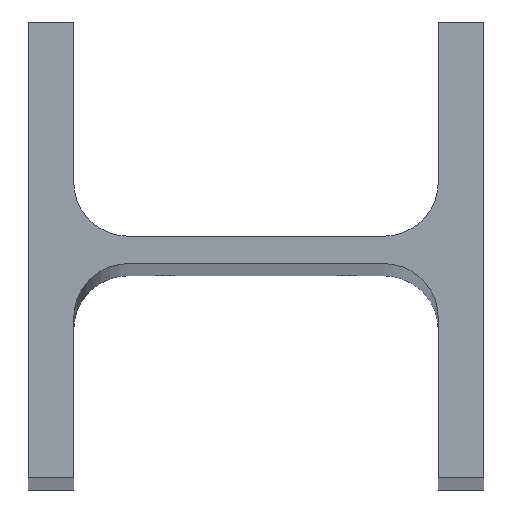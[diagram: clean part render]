
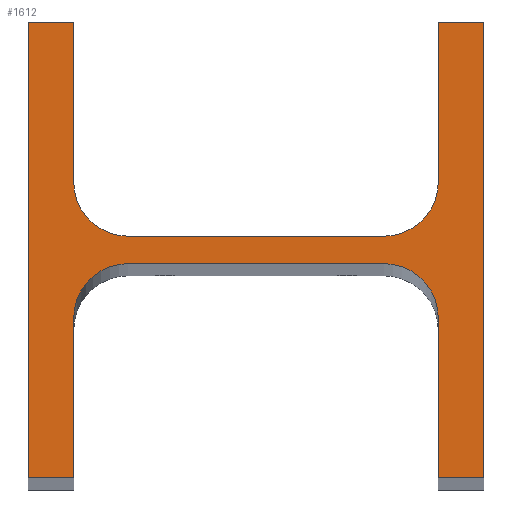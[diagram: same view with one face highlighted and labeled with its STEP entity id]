
A CAD part, top view. The second image highlights one B-rep face of the part: STEP entity #1612.
In plain terms, the highlighted planar face has unit normal (0, 0, 1).
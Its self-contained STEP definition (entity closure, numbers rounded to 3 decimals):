
#32 = VERTEX_POINT ( 'NONE', #3467 ) ;
#65 = CARTESIAN_POINT ( 'NONE',  ( 40., -50., 1530. ) ) ;
#67 = CARTESIAN_POINT ( 'NONE',  ( 50., -50., 1530. ) ) ;
#128 = DIRECTION ( 'NONE',  ( -1., 0., 0. ) ) ;
#144 = CARTESIAN_POINT ( 'NONE',  ( 40., -15., 1530. ) ) ;
#183 = VERTEX_POINT ( 'NONE', #1181 ) ;
#210 = VERTEX_POINT ( 'NONE', #264 ) ;
#216 = CIRCLE ( 'NONE', #276, 12. ) ;
#230 = CARTESIAN_POINT ( 'NONE',  ( 50., 50., 1530. ) ) ;
#264 = CARTESIAN_POINT ( 'NONE',  ( -40., 15., 1530. ) ) ;
#272 = EDGE_CURVE ( 'NONE', #4253, #183, #2492, .T. ) ;
#276 = AXIS2_PLACEMENT_3D ( 'NONE', #1797, #2144, #128 ) ;
#340 = ORIENTED_EDGE ( 'NONE', *, *, #396, .F. ) ;
#357 = AXIS2_PLACEMENT_3D ( 'NONE', #2618, #2980, #1302 ) ;
#373 = ORIENTED_EDGE ( 'NONE', *, *, #444, .F. ) ;
#396 = EDGE_CURVE ( 'NONE', #210, #4233, #2098, .T. ) ;
#423 = DIRECTION ( 'NONE',  ( 0., 1., 0. ) ) ;
#441 = LINE ( 'NONE', #4179, #3630 ) ;
#444 = EDGE_CURVE ( 'NONE', #513, #4253, #3717, .T. ) ;
#477 = CARTESIAN_POINT ( 'NONE',  ( -28., 3., 1530. ) ) ;
#513 = VERTEX_POINT ( 'NONE', #3847 ) ;
#533 = EDGE_CURVE ( 'NONE', #4233, #2009, #3804, .T. ) ;
#557 = DIRECTION ( 'NONE',  ( -1., 0., 0. ) ) ;
#573 = VECTOR ( 'NONE', #557, 1000. ) ;
#588 = ORIENTED_EDGE ( 'NONE', *, *, #2747, .F. ) ;
#591 = DIRECTION ( 'NONE',  ( -1., 0., 0. ) ) ;
#607 = DIRECTION ( 'NONE',  ( 0., 1., 0. ) ) ;
#693 = DIRECTION ( 'NONE',  ( 1., 0., 0. ) ) ;
#708 = CARTESIAN_POINT ( 'NONE',  ( -40., -50., 1530. ) ) ;
#714 = VECTOR ( 'NONE', #591, 1000. ) ;
#773 = CARTESIAN_POINT ( 'NONE',  ( 28., 3., 1530. ) ) ;
#831 = CARTESIAN_POINT ( 'NONE',  ( 28., 15., 1530. ) ) ;
#874 = ORIENTED_EDGE ( 'NONE', *, *, #272, .F. ) ;
#889 = EDGE_LOOP ( 'NONE', ( #2291, #588, #2953, #3094, #4211, #3871, #340, #3133, #874, #373, #1737, #2743, #4133, #4248, #1467, #2971 ) ) ;
#1003 = CARTESIAN_POINT ( 'NONE',  ( 40., 15., 1530. ) ) ;
#1071 = EDGE_CURVE ( 'NONE', #1914, #513, #1629, .T. ) ;
#1081 = VECTOR ( 'NONE', #4214, 1000. ) ;
#1181 = CARTESIAN_POINT ( 'NONE',  ( -40., 50., 1530. ) ) ;
#1234 = FACE_OUTER_BOUND ( 'NONE', #889, .T. ) ;
#1244 = DIRECTION ( 'NONE',  ( 0., 0., 1. ) ) ;
#1271 = CARTESIAN_POINT ( 'NONE',  ( -28., -3., 1530. ) ) ;
#1302 = DIRECTION ( 'NONE',  ( 1., 0., 0. ) ) ;
#1337 = EDGE_CURVE ( 'NONE', #1745, #3792, #3346, .T. ) ;
#1430 = CARTESIAN_POINT ( 'NONE',  ( -40., 50., 1530. ) ) ;
#1467 = ORIENTED_EDGE ( 'NONE', *, *, #3203, .F. ) ;
#1511 = AXIS2_PLACEMENT_3D ( 'NONE', #2451, #2744, #4421 ) ;
#1543 = EDGE_CURVE ( 'NONE', #3693, #1914, #4473, .T. ) ;
#1588 = VECTOR ( 'NONE', #693, 1000. ) ;
#1612 = ADVANCED_FACE ( 'NONE', ( #1234 ), #3770, .T. ) ;
#1629 = LINE ( 'NONE', #3672, #573 ) ;
#1737 = ORIENTED_EDGE ( 'NONE', *, *, #1071, .F. ) ;
#1744 = AXIS2_PLACEMENT_3D ( 'NONE', #831, #4174, #3907 ) ;
#1745 = VERTEX_POINT ( 'NONE', #3259 ) ;
#1797 = CARTESIAN_POINT ( 'NONE',  ( 28., -15., 1530. ) ) ;
#1891 = CIRCLE ( 'NONE', #357, 12. ) ;
#1903 = LINE ( 'NONE', #2542, #2317 ) ;
#1914 = VERTEX_POINT ( 'NONE', #4141 ) ;
#1924 = LINE ( 'NONE', #230, #3192 ) ;
#2009 = VERTEX_POINT ( 'NONE', #773 ) ;
#2098 = CIRCLE ( 'NONE', #2673, 12. ) ;
#2144 = DIRECTION ( 'NONE',  ( 0., 0., 1. ) ) ;
#2238 = VECTOR ( 'NONE', #2384, 1000. ) ;
#2242 = VECTOR ( 'NONE', #4255, 1000. ) ;
#2283 = EDGE_CURVE ( 'NONE', #3193, #2354, #1903, .T. ) ;
#2288 = DIRECTION ( 'NONE',  ( 1., 0., 0. ) ) ;
#2291 = ORIENTED_EDGE ( 'NONE', *, *, #2780, .F. ) ;
#2314 = CIRCLE ( 'NONE', #1744, 12. ) ;
#2317 = VECTOR ( 'NONE', #3929, 1000. ) ;
#2339 = EDGE_CURVE ( 'NONE', #2009, #2644, #2314, .T. ) ;
#2354 = VERTEX_POINT ( 'NONE', #144 ) ;
#2384 = DIRECTION ( 'NONE',  ( 0., -1., 0. ) ) ;
#2451 = CARTESIAN_POINT ( 'NONE',  ( 28., 15., 1530. ) ) ;
#2475 = EDGE_CURVE ( 'NONE', #3792, #3693, #1891, .T. ) ;
#2492 = LINE ( 'NONE', #1430, #4045 ) ;
#2542 = CARTESIAN_POINT ( 'NONE',  ( 40., -15., 1530. ) ) ;
#2582 = CARTESIAN_POINT ( 'NONE',  ( 50., -50., 1530. ) ) ;
#2618 = CARTESIAN_POINT ( 'NONE',  ( -28., -15., 1530. ) ) ;
#2644 = VERTEX_POINT ( 'NONE', #1003 ) ;
#2673 = AXIS2_PLACEMENT_3D ( 'NONE', #2959, #1244, #2288 ) ;
#2743 = ORIENTED_EDGE ( 'NONE', *, *, #1543, .F. ) ;
#2744 = DIRECTION ( 'NONE',  ( 0., 0., 1. ) ) ;
#2747 = EDGE_CURVE ( 'NONE', #2908, #4227, #3817, .T. ) ;
#2780 = EDGE_CURVE ( 'NONE', #4227, #3193, #3186, .T. ) ;
#2906 = CARTESIAN_POINT ( 'NONE',  ( -50., 50., 1530. ) ) ;
#2908 = VERTEX_POINT ( 'NONE', #4139 ) ;
#2953 = ORIENTED_EDGE ( 'NONE', *, *, #4447, .F. ) ;
#2959 = CARTESIAN_POINT ( 'NONE',  ( -28., 15., 1530. ) ) ;
#2971 = ORIENTED_EDGE ( 'NONE', *, *, #2283, .F. ) ;
#2980 = DIRECTION ( 'NONE',  ( 0., 0., 1. ) ) ;
#3004 = EDGE_CURVE ( 'NONE', #2644, #32, #3574, .T. ) ;
#3042 = VECTOR ( 'NONE', #423, 1000. ) ;
#3094 = ORIENTED_EDGE ( 'NONE', *, *, #3004, .F. ) ;
#3133 = ORIENTED_EDGE ( 'NONE', *, *, #3303, .F. ) ;
#3186 = LINE ( 'NONE', #65, #1081 ) ;
#3192 = VECTOR ( 'NONE', #3307, 1000. ) ;
#3193 = VERTEX_POINT ( 'NONE', #3248 ) ;
#3203 = EDGE_CURVE ( 'NONE', #2354, #1745, #216, .T. ) ;
#3248 = CARTESIAN_POINT ( 'NONE',  ( 40., -50., 1530. ) ) ;
#3259 = CARTESIAN_POINT ( 'NONE',  ( 28., -3., 1530. ) ) ;
#3270 = CARTESIAN_POINT ( 'NONE',  ( -40., -15., 1530. ) ) ;
#3303 = EDGE_CURVE ( 'NONE', #183, #210, #441, .T. ) ;
#3307 = DIRECTION ( 'NONE',  ( 1., 0., 0. ) ) ;
#3346 = LINE ( 'NONE', #1271, #714 ) ;
#3450 = CARTESIAN_POINT ( 'NONE',  ( 28., 3., 1530. ) ) ;
#3467 = CARTESIAN_POINT ( 'NONE',  ( 40., 50., 1530. ) ) ;
#3550 = CARTESIAN_POINT ( 'NONE',  ( 40., 50., 1530. ) ) ;
#3567 = DIRECTION ( 'NONE',  ( 0., -1., 0. ) ) ;
#3574 = LINE ( 'NONE', #3550, #3042 ) ;
#3630 = VECTOR ( 'NONE', #3567, 1000. ) ;
#3672 = CARTESIAN_POINT ( 'NONE',  ( -50., -50., 1530. ) ) ;
#3693 = VERTEX_POINT ( 'NONE', #3270 ) ;
#3717 = LINE ( 'NONE', #4434, #3974 ) ;
#3770 = PLANE ( 'NONE',  #1511 ) ;
#3792 = VERTEX_POINT ( 'NONE', #4124 ) ;
#3804 = LINE ( 'NONE', #3450, #1588 ) ;
#3817 = LINE ( 'NONE', #2582, #2242 ) ;
#3847 = CARTESIAN_POINT ( 'NONE',  ( -50., -50., 1530. ) ) ;
#3871 = ORIENTED_EDGE ( 'NONE', *, *, #533, .F. ) ;
#3907 = DIRECTION ( 'NONE',  ( 1., 0., 0. ) ) ;
#3929 = DIRECTION ( 'NONE',  ( 0., 1., 0. ) ) ;
#3974 = VECTOR ( 'NONE', #607, 1000. ) ;
#4045 = VECTOR ( 'NONE', #4491, 1000. ) ;
#4124 = CARTESIAN_POINT ( 'NONE',  ( -28., -3., 1530. ) ) ;
#4133 = ORIENTED_EDGE ( 'NONE', *, *, #2475, .F. ) ;
#4139 = CARTESIAN_POINT ( 'NONE',  ( 50., 50., 1530. ) ) ;
#4141 = CARTESIAN_POINT ( 'NONE',  ( -40., -50., 1530. ) ) ;
#4174 = DIRECTION ( 'NONE',  ( 0., 0., 1. ) ) ;
#4179 = CARTESIAN_POINT ( 'NONE',  ( -40., 15., 1530. ) ) ;
#4211 = ORIENTED_EDGE ( 'NONE', *, *, #2339, .F. ) ;
#4214 = DIRECTION ( 'NONE',  ( -1., 0., 0. ) ) ;
#4227 = VERTEX_POINT ( 'NONE', #67 ) ;
#4233 = VERTEX_POINT ( 'NONE', #477 ) ;
#4248 = ORIENTED_EDGE ( 'NONE', *, *, #1337, .F. ) ;
#4253 = VERTEX_POINT ( 'NONE', #2906 ) ;
#4255 = DIRECTION ( 'NONE',  ( 0., -1., 0. ) ) ;
#4421 = DIRECTION ( 'NONE',  ( 1., 0., 0. ) ) ;
#4434 = CARTESIAN_POINT ( 'NONE',  ( -50., 50., 1530. ) ) ;
#4447 = EDGE_CURVE ( 'NONE', #32, #2908, #1924, .T. ) ;
#4473 = LINE ( 'NONE', #708, #2238 ) ;
#4491 = DIRECTION ( 'NONE',  ( 1., 0., 0. ) ) ;
